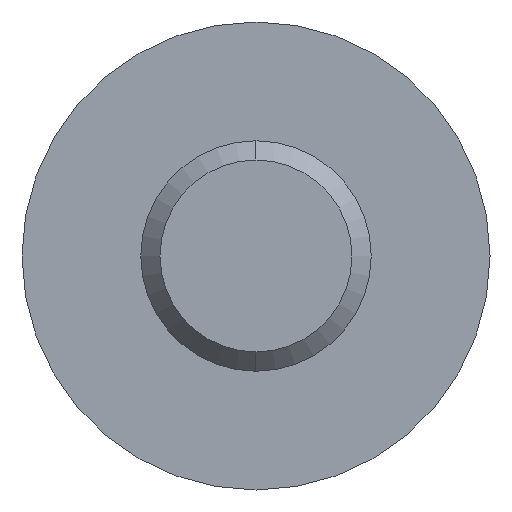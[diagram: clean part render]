
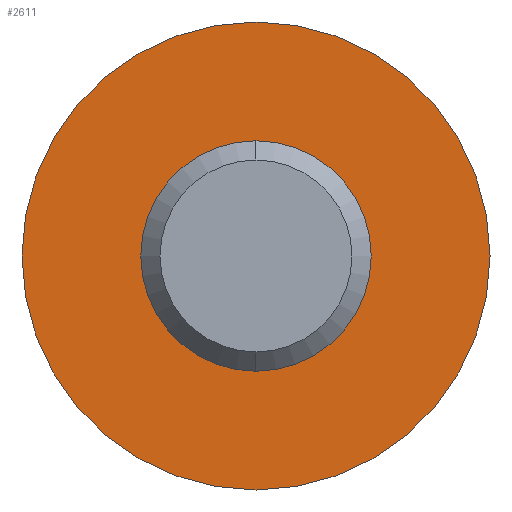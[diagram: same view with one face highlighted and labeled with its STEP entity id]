
A CAD part, left-side view. The second image highlights one B-rep face of the part: STEP entity #2611.
In plain terms, the highlighted planar face has unit normal (-1, 0, 0).
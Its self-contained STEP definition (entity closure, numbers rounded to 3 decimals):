
#180 = VERTEX_POINT ( 'NONE', #2979 ) ;
#387 = VERTEX_POINT ( 'NONE', #3529 ) ;
#413 = ORIENTED_EDGE ( 'NONE', *, *, #2321, .F. ) ;
#469 = AXIS2_PLACEMENT_3D ( 'NONE', #2803, #1152, #3085 ) ;
#472 = PLANE ( 'NONE',  #807 ) ;
#541 = CARTESIAN_POINT ( 'NONE',  ( 0., 0., 1.2 ) ) ;
#611 = CARTESIAN_POINT ( 'NONE',  ( 0., 0., 0. ) ) ;
#700 = EDGE_CURVE ( 'NONE', #180, #387, #1378, .T. ) ;
#762 = CIRCLE ( 'NONE', #2965, 2.925 ) ;
#772 = CARTESIAN_POINT ( 'NONE',  ( 0., 1.2, 0. ) ) ;
#807 = AXIS2_PLACEMENT_3D ( 'NONE', #772, #2969, #1313 ) ;
#810 = CARTESIAN_POINT ( 'NONE',  ( 0., 0., 0. ) ) ;
#893 = ORIENTED_EDGE ( 'NONE', *, *, #700, .F. ) ;
#905 = DIRECTION ( 'NONE',  ( 0., 0., -1. ) ) ;
#952 = AXIS2_PLACEMENT_3D ( 'NONE', #810, #2715, #1074 ) ;
#1065 = EDGE_LOOP ( 'NONE', ( #2415, #1244 ) ) ;
#1074 = DIRECTION ( 'NONE',  ( 0., 0., -1. ) ) ;
#1152 = DIRECTION ( 'NONE',  ( 1., 0., 0. ) ) ;
#1167 = EDGE_LOOP ( 'NONE', ( #893, #413 ) ) ;
#1244 = ORIENTED_EDGE ( 'NONE', *, *, #3288, .T. ) ;
#1313 = DIRECTION ( 'NONE',  ( 0., 0., 1. ) ) ;
#1378 = CIRCLE ( 'NONE', #469, 2.925 ) ;
#1534 = DIRECTION ( 'NONE',  ( 1., 0., 0. ) ) ;
#1537 = CIRCLE ( 'NONE', #2590, 1.2 ) ;
#1802 = FACE_BOUND ( 'NONE', #1065, .T. ) ;
#1973 = CARTESIAN_POINT ( 'NONE',  ( 0., 0., -1.2 ) ) ;
#2011 = CIRCLE ( 'NONE', #952, 1.2 ) ;
#2114 = EDGE_CURVE ( 'NONE', #3079, #2178, #2011, .T. ) ;
#2178 = VERTEX_POINT ( 'NONE', #541 ) ;
#2321 = EDGE_CURVE ( 'NONE', #387, #180, #762, .T. ) ;
#2415 = ORIENTED_EDGE ( 'NONE', *, *, #2114, .T. ) ;
#2537 = DIRECTION ( 'NONE',  ( 1., 0., 0. ) ) ;
#2590 = AXIS2_PLACEMENT_3D ( 'NONE', #3172, #1534, #3448 ) ;
#2611 = ADVANCED_FACE ( 'NONE', ( #1802, #2789 ), #472, .T. ) ;
#2715 = DIRECTION ( 'NONE',  ( 1., 0., 0. ) ) ;
#2789 = FACE_OUTER_BOUND ( 'NONE', #1167, .T. ) ;
#2803 = CARTESIAN_POINT ( 'NONE',  ( 0., 0., 0. ) ) ;
#2965 = AXIS2_PLACEMENT_3D ( 'NONE', #611, #2537, #905 ) ;
#2969 = DIRECTION ( 'NONE',  ( -1., 0., 0. ) ) ;
#2979 = CARTESIAN_POINT ( 'NONE',  ( 0., 0., -2.925 ) ) ;
#3079 = VERTEX_POINT ( 'NONE', #1973 ) ;
#3085 = DIRECTION ( 'NONE',  ( 0., 0., -1. ) ) ;
#3172 = CARTESIAN_POINT ( 'NONE',  ( 0., 0., 0. ) ) ;
#3288 = EDGE_CURVE ( 'NONE', #2178, #3079, #1537, .T. ) ;
#3448 = DIRECTION ( 'NONE',  ( 0., 0., -1. ) ) ;
#3529 = CARTESIAN_POINT ( 'NONE',  ( 0., 0., 2.925 ) ) ;
